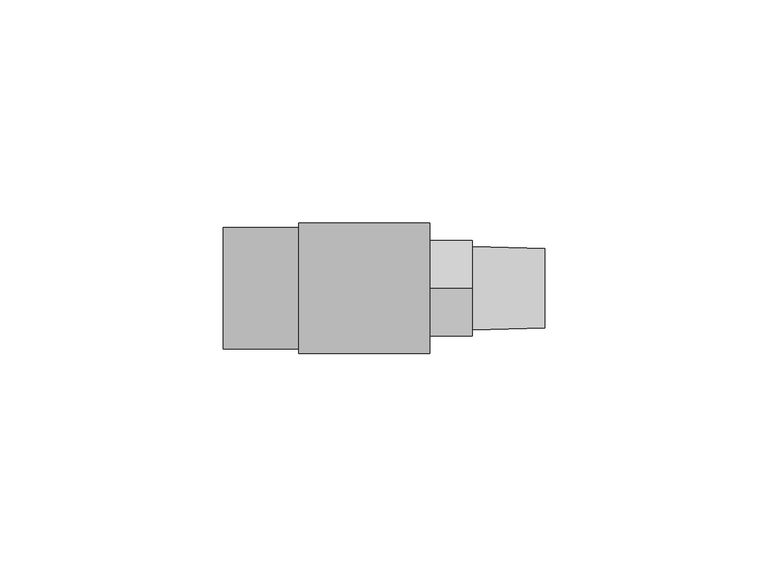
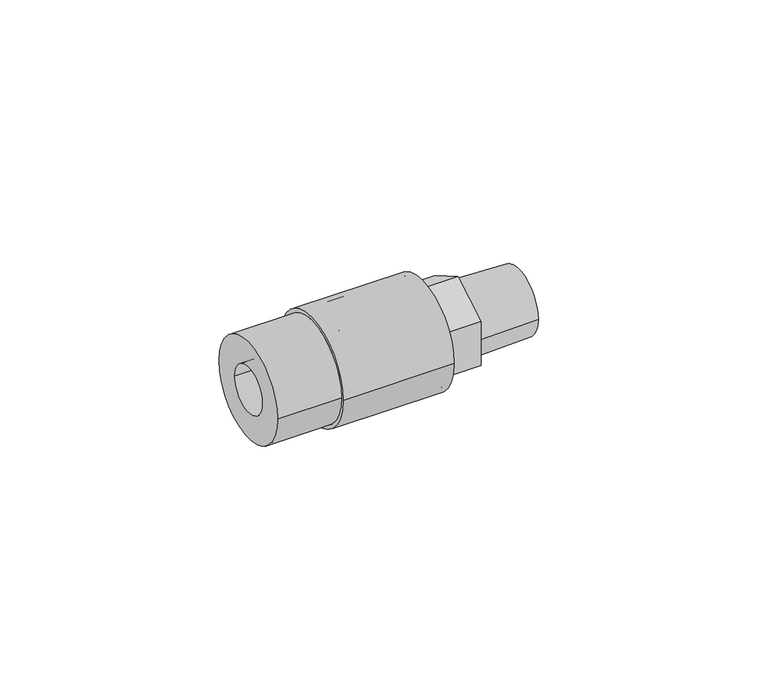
"""IFC4 building model written with IfcOpenShell, lengths in millimetres: pipe fitting geometry, Aquatherm - Fusion Outlet Transition Male : POTABLE BRASS - HEX."""

from ifc_helpers import new_model, si_unit, frame, origin, place, context, project, spatial, polyline, circle_curve, source, transform, mapped, element, save
from ifc_brep_helpers import plane_surface, cylinder_surface, revolved_surface, advanced_brep


def pipe_fitting_13a206dc(model_context):
    return source(origin(), model_context, "Body", "AdvancedBrep", [
        advanced_brep(
        [(9.445625, 13.589, 0.0), (9.445625, -13.589, 0.0), (9.445625, 6.35, 0.0), (9.445625, -6.35, 0.0), (29.257625, 13.589, 0.0), (29.257625, -13.589, 0.0), (29.257625, 0.0, -12.3183453), (29.257625, -10.668, -6.1591727), (29.257625, -10.668, 6.1591727), (29.257625, 0.0, 12.3183453), (29.257625, 10.668, 6.1591727), (29.257625, 10.668, -6.1591727), (29.257625, 6.35, 0.0), (29.257625, -6.35, 0.0), (38.909625, 0.0, -12.3183453), (38.909625, 10.668, -6.1591727), (38.909625, 10.668, 6.1591727), (38.909625, 0.0, 12.3183453), (38.909625, -10.668, 6.1591727), (38.909625, -10.668, -6.1591727), (38.909625, 9.3810449, 0.0), (38.909625, -9.3810449, 0.0), (38.909625, 6.35, 0.0), (38.909625, -6.35, 0.0), (55.165625, -6.35, 0.0), (55.165625, 6.35, 0.0), (55.165625, -8.8752051, 0.0), (55.165625, 8.8752051, 0.0)],
        [
            (0, 1, circle_curve(frame((9.445625, 0.0, 0.0), z_axis=(-1.0, 0.0, 0.0), x_axis=(0.0, -1.0, 0.0)), 13.589)),
            (1, 0, circle_curve(frame((9.445625, 0.0, 0.0), z_axis=(-1.0, 0.0, 0.0), x_axis=(0.0, -1.0, 0.0)), 13.589)),
            (2, 3, circle_curve(frame((9.445625, 0.0, 0.0), z_axis=(1.0, 0.0, 0.0), x_axis=(0.0, -1.0, 0.0)), 6.35)),
            (3, 2, circle_curve(frame((9.445625, 0.0, 0.0), z_axis=(1.0, 0.0, 0.0), x_axis=(0.0, -1.0, 0.0)), 6.35)),
            (4, 5, circle_curve(frame((29.257625, 0.0, 0.0), z_axis=(1.0, 0.0, 0.0), x_axis=(0.0, -1.0, 0.0)), 13.589)),
            (5, 4, circle_curve(frame((29.257625, 0.0, 0.0), z_axis=(1.0, 0.0, 0.0), x_axis=(0.0, -1.0, 0.0)), 13.589)),
            (6, 7),
            (7, 8),
            (8, 9),
            (9, 10),
            (10, 11),
            (11, 6),
            (0, 4),
            (5, 1),
            (2, 12),
            (12, 13, circle_curve(frame((29.257625, 0.0, 0.0), z_axis=(1.0, 0.0, 0.0), x_axis=(0.0, -1.0, 0.0)), 6.35)),
            (13, 3),
            (13, 12, circle_curve(frame((29.257625, 0.0, 0.0), z_axis=(1.0, 0.0, 0.0), x_axis=(0.0, -1.0, 0.0)), 6.35)),
            (14, 15),
            (15, 16),
            (16, 17),
            (17, 18),
            (18, 19),
            (19, 14),
            (20, 21, circle_curve(frame((38.909625, 0.0, 0.0), z_axis=(-1.0, 0.0, 0.0), x_axis=(0.0, -1.0, 0.0)), 9.3810449)),
            (21, 20, circle_curve(frame((38.909625, 0.0, 0.0), z_axis=(-1.0, 0.0, 0.0), x_axis=(0.0, -1.0, 0.0)), 9.3810449)),
            (19, 7),
            (6, 14),
            (18, 8),
            (17, 9),
            (16, 10),
            (15, 11),
            (12, 22),
            (22, 23, circle_curve(frame((38.909625, 0.0, 0.0), z_axis=(1.0, 0.0, 0.0), x_axis=(0.0, -1.0, 0.0)), 6.35)),
            (23, 13),
            (23, 22, circle_curve(frame((38.909625, 0.0, 0.0), z_axis=(1.0, 0.0, 0.0), x_axis=(0.0, -1.0, 0.0)), 6.35)),
            (23, 24),
            (24, 25, circle_curve(frame((55.165625, 0.0, 0.0), z_axis=(1.0, 0.0, 0.0), x_axis=(0.0, -1.0, 0.0)), 6.35)),
            (25, 22),
            (25, 24, circle_curve(frame((55.165625, 0.0, 0.0), z_axis=(1.0, 0.0, 0.0), x_axis=(0.0, -1.0, 0.0)), 6.35)),
            (24, 26),
            (26, 27, circle_curve(frame((55.165625, 0.0, 0.0), z_axis=(1.0, 0.0, 0.0), x_axis=(0.0, -1.0, 0.0)), 8.8752051)),
            (27, 25),
            (27, 26, circle_curve(frame((55.165625, 0.0, 0.0), z_axis=(1.0, 0.0, 0.0), x_axis=(0.0, -1.0, 0.0)), 8.8752051)),
            (26, 21),
            (20, 27),
        ],
        [
            plane_surface(frame((9.445625, -13.589, 0.0), z_axis=(-1.0, 0.0, 0.0), x_axis=(0.0, 0.0, 1.0))),
            plane_surface(frame((29.257625, -13.589, 0.0), z_axis=(1.0, 0.0, 0.0), x_axis=(0.0, 0.0, -1.0))),
            cylinder_surface(frame((29.257625, 0.0, 0.0), z_axis=(-1.0, 0.0, 0.0), x_axis=(0.0, -1.0, 0.0)), 13.589),
            revolved_surface(polyline([(29.257625, -6.35, 0.0), (9.445625, -6.35, 0.0)]), (11.810406, 0.0, 0.0), (1.0, 0.0, 0.0)),
            plane_surface(frame((38.909625, 0.0, -12.3183453), z_axis=(1.0, 0.0, 0.0), x_axis=(0.0, 0.8660254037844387, -0.5))),
            plane_surface(frame((29.257625, 0.0, -12.3183453), z_axis=(0.0, -0.5, -0.8660254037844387), x_axis=(1.0, 0.0, 0.0))),
            plane_surface(frame((29.257625, -10.668, -6.1591727), z_axis=(0.0, -1.0, 0.0), x_axis=(1.0, 0.0, 0.0))),
            plane_surface(frame((29.257625, -10.668, 6.1591727), z_axis=(0.0, -0.49999999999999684, 0.8660254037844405), x_axis=(1.0, 0.0, 0.0))),
            plane_surface(frame((29.257625, 0.0, 12.3183453), z_axis=(0.0, 0.5000000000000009, 0.8660254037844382), x_axis=(1.0, 0.0, 0.0))),
            plane_surface(frame((29.257625, 10.668, 6.1591727), z_axis=(0.0, 1.0, 0.0), x_axis=(1.0, 0.0, 0.0))),
            plane_surface(frame((29.257625, 10.668, -6.1591727), z_axis=(0.0, 0.49999999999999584, -0.8660254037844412), x_axis=(1.0, 0.0, 0.0))),
            revolved_surface(polyline([(38.909625, -6.35, 0.0), (29.257625, -6.35, 0.0)]), (29.257625, 0.0, 0.0), (1.0, 0.0, 0.0)),
            revolved_surface(polyline([(55.165625, -6.35, 0.0), (38.909625, -6.35, 0.0)]), (90.0386938, 0.0, 0.0), (1.0, 0.0, 0.0)),
            plane_surface(frame((55.165625, 0.0, 0.0), z_axis=(1.0, 0.0, 0.0), x_axis=(0.0, -1.0, 0.0))),
            revolved_surface(polyline([(38.909625, -9.3810449, 0.0), (55.165625, -8.8752051, 0.0)]), (90.0386938, 0.0, 0.0), (1.0, 0.0, 0.0)),
        ],
        [
            (0, [[1, 2], [3, 4]]),
            (1, [[5, 6], [7, 8, 9, 10, 11, 12]]),
            (2, [[-1, 13, -6, 14]]),
            (2, [[-2, -14, -5, -13]]),
            (3, [[-3, 15, 16, 17]]),
            (3, [[-4, -17, 18, -15]]),
            (4, [[19, 20, 21, 22, 23, 24], [25, 26]]),
            (5, [[-24, 27, -7, 28]]),
            (6, [[-23, 29, -8, -27]]),
            (7, [[-22, 30, -9, -29]]),
            (8, [[-21, 31, -10, -30]]),
            (9, [[-20, 32, -11, -31]]),
            (10, [[-19, -28, -12, -32]]),
            (11, [[33, 34, 35, -16]]),
            (11, [[-33, -18, -35, 36]]),
            (12, [[37, 38, 39, -36]]),
            (12, [[-37, -34, -39, 40]]),
            (13, [[-38, 41, 42, 43]]),
            (13, [[-40, -43, 44, -41]]),
            (14, [[-42, 45, -25, 46]]),
            (14, [[-44, -46, -26, -45]]),
        ],
    ),
        advanced_brep(
        [(9.4257813, 13.5929688, 0.0), (9.4257813, -13.5929687, 0.0), (9.4257813, 6.35, 0.0), (9.4257813, -6.35, 0.0), (-16.8875676, -6.35, 0.0), (-16.8875676, 6.35, 0.0), (-16.8875676, -13.5929688, 0.0), (-16.8875676, 13.5929688, 0.0), (0.0, 13.5929688, 0.0), (0.0, -13.5929688, 0.0), (29.4441562, 14.6347656, 0.0), (29.4441562, -14.6347656, 0.0), (29.4441562, 13.5929688, 0.0), (29.4441562, -13.5929687, 0.0), (0.0, -14.6347656, 0.0), (0.0, 14.6347656, 0.0)],
        [
            (0, 1, circle_curve(frame((9.4257813, 0.0, 0.0), z_axis=(1.0, 0.0, 0.0), x_axis=(0.0, -1.0, 0.0)), 13.5929688)),
            (1, 0, circle_curve(frame((9.4257813, 0.0, 0.0), z_axis=(1.0, 0.0, 0.0), x_axis=(0.0, -1.0, 0.0)), 13.5929688)),
            (2, 3, circle_curve(frame((9.4257813, 0.0, 0.0), z_axis=(-1.0, 0.0, 0.0), x_axis=(0.0, -1.0, 0.0)), 6.35)),
            (3, 2, circle_curve(frame((9.4257813, 0.0, 0.0), z_axis=(-1.0, 0.0, 0.0), x_axis=(0.0, -1.0, 0.0)), 6.35)),
            (4, 5, circle_curve(frame((-16.8875676, 0.0, 0.0), z_axis=(-1.0, 0.0, 0.0), x_axis=(0.0, -1.0, 0.0)), 6.35)),
            (5, 2),
            (3, 4),
            (5, 4, circle_curve(frame((-16.8875676, 0.0, 0.0), z_axis=(-1.0, 0.0, 0.0), x_axis=(0.0, -1.0, 0.0)), 6.35)),
            (6, 7, circle_curve(frame((-16.8875676, 0.0, 0.0), z_axis=(1.0, 0.0, 0.0), x_axis=(0.0, -1.0, 0.0)), 13.5929688)),
            (7, 8),
            (8, 9, circle_curve(frame((0.0, 0.0, 0.0), z_axis=(-1.0, 0.0, 0.0), x_axis=(0.0, -1.0, 0.0)), 13.5929688)),
            (9, 6),
            (7, 6, circle_curve(frame((-16.8875676, 0.0, 0.0), z_axis=(1.0, 0.0, 0.0), x_axis=(0.0, -1.0, 0.0)), 13.5929688)),
            (9, 8, circle_curve(frame((0.0, 0.0, 0.0), z_axis=(-1.0, 0.0, 0.0), x_axis=(0.0, -1.0, 0.0)), 13.5929688)),
            (10, 11, circle_curve(frame((29.4441562, 0.0, 0.0), z_axis=(1.0, 0.0, 0.0), x_axis=(0.0, -1.0, 0.0)), 14.6347656)),
            (11, 10, circle_curve(frame((29.4441562, 0.0, 0.0), z_axis=(1.0, 0.0, 0.0), x_axis=(0.0, -1.0, 0.0)), 14.6347656)),
            (12, 13, circle_curve(frame((29.4441562, 0.0, 0.0), z_axis=(-1.0, 0.0, 0.0), x_axis=(0.0, -1.0, 0.0)), 13.5929688)),
            (13, 12, circle_curve(frame((29.4441562, 0.0, 0.0), z_axis=(-1.0, 0.0, 0.0), x_axis=(0.0, -1.0, 0.0)), 13.5929688)),
            (13, 1),
            (0, 12),
            (11, 14),
            (14, 15, circle_curve(frame((0.0, 0.0, 0.0), z_axis=(1.0, 0.0, 0.0), x_axis=(0.0, -1.0, 0.0)), 14.6347656)),
            (15, 10),
            (15, 14, circle_curve(frame((0.0, 0.0, 0.0), z_axis=(1.0, 0.0, 0.0), x_axis=(0.0, -1.0, 0.0)), 14.6347656)),
        ],
        [
            plane_surface(frame((9.4257813, -6.35, 0.0), z_axis=(1.0, 0.0, 0.0), x_axis=(0.0, 0.0, 1.0))),
            revolved_surface(polyline([(9.4257813, -6.35, 0.0), (-16.8875676, -6.35, 0.0)]), (9.4257813, 0.0, 0.0), (1.0, 0.0, 0.0)),
            cylinder_surface(frame((0.0, 0.0, 0.0), z_axis=(-1.0, 0.0, 0.0), x_axis=(0.0, -1.0, 0.0)), 13.5929688),
            plane_surface(frame((29.4441562, -13.5929687, 0.0), z_axis=(1.0, 0.0, 0.0), x_axis=(0.0, 0.0, 1.0))),
            revolved_surface(polyline([(29.4441562, -13.5929688, 0.0), (9.4257813, -13.5929688, 0.0)]), (29.4441562, 0.0, 0.0), (1.0, 0.0, 0.0)),
            cylinder_surface(frame((0.0, 0.0, 0.0), z_axis=(-1.0, 0.0, 0.0), x_axis=(0.0, -1.0, 0.0)), 14.6347656),
            plane_surface(frame((-16.8875676, -6.35, 0.0), z_axis=(-1.0, 0.0, 0.0), x_axis=(0.0, 0.0, -1.0))),
            plane_surface(frame((0.0, -13.5929687, 0.0), z_axis=(-1.0, 0.0, 0.0), x_axis=(0.0, 0.0, -1.0))),
        ],
        [
            (0, [[1, 2], [3, 4]]),
            (1, [[5, 6, -4, 7]]),
            (1, [[8, -7, -3, -6]]),
            (2, [[9, 10, 11, 12]]),
            (2, [[13, -12, 14, -10]]),
            (3, [[15, 16], [17, 18]]),
            (4, [[-18, 19, -1, 20]]),
            (4, [[-17, -20, -2, -19]]),
            (5, [[-16, 21, 22, 23]]),
            (5, [[-15, -23, 24, -21]]),
            (6, [[-9, -13], [-5, -8]]),
            (7, [[-22, -24], [-11, -14]]),
        ],
    ),
    ])


if __name__ == "__main__":
    model = new_model("IFC4")
    model_context = context("Model", 3, world=origin())
    ifc_project = project(units=[si_unit("LENGTHUNIT", "METRE", prefix="MILLI")], contexts=[model_context])
    site = spatial("IfcSite", under=ifc_project)
    building = spatial("IfcBuilding", under=site)
    placement = place(None, origin())
    pipe_fitting_shape = pipe_fitting_13a206dc(model_context)
    element("IfcPipeFitting", 1, ObjectType="Aquatherm - Fusion Outlet Transition Male : POTABLE BRASS - HEX", at=placement, inside=building, context=model_context, shape_type="MappedRepresentation", body=[
        mapped(pipe_fitting_shape, transform((0.0, 0.0, 0.0), x_axis=(1.0, 0.0, 0.0), y_axis=(0.0, 1.0, 0.0), z_axis=(0.0, 0.0, 1.0))),
    ])
    save(model, "model.ifc")
